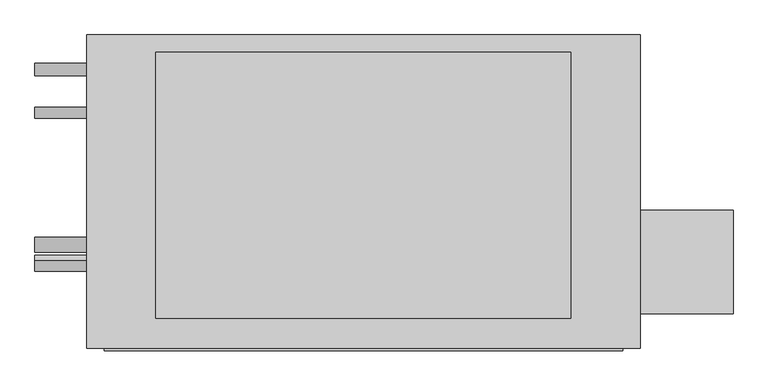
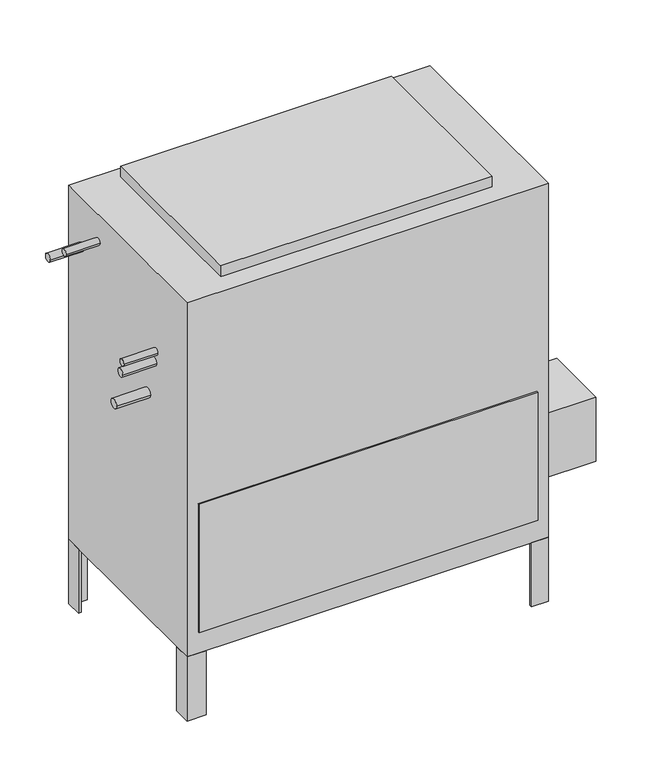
"""IFC4 building model written with IfcOpenShell, lengths in millimetres: proxy geometry, Concealed_High_Capacity_Vertical_Fan_Coil_Unit_-_42DDA_-_CARRIER_-_4-Pipe_LH_2022 : Size 10 - 277v/60Hz/1Ph - 4/2 Coil."""

from ifc_helpers import new_model, si_unit, point, frame, frame_2d, origin, origin_with_axes, place, context, project, spatial, polyline, circle_curve, trimmed, segment, composite_curve, outline, extrude, source, transform, mapped, element, save


def mechanical_equipment_23f30b28(model_context):
    return source(origin(), model_context, "Body", "SweptSolid", [
        extrude(outline(polyline([(695.325, -265.1125), (695.325, -417.5125), (558.8, -417.5125), (558.8, -265.1125), (695.325, -265.1125)])), frame((0.0, 0.0, 101.6), z_axis=(0.0, 0.0, 1.0), x_axis=(1.0, 0.0, 0.0)), (0.0, 0.0, 1.0), 152.4),
        extrude(outline(polyline([(558.8, -46.0375), (552.45, -46.0375), (552.45, -14.2875), (520.7, -14.2875), (520.7, -7.9375), (558.8, -7.9375), (558.8, -46.0375)])), frame((0.0, 0.0, -152.4), z_axis=(0.0, 0.0, 1.0), x_axis=(1.0, 0.0, 0.0)), (0.0, 0.0, 1.0), 152.4),
        extrude(outline(polyline([(-215.9, -7.9375), (-215.9, -14.2875), (-247.65, -14.2875), (-247.65, -46.0375), (-254.0, -46.0375), (-254.0, -7.9375), (-215.9, -7.9375)])), frame((0.0, 0.0, -152.4), z_axis=(0.0, 0.0, 1.0), x_axis=(1.0, 0.0, 0.0)), (0.0, 0.0, 1.0), 152.4),
        extrude(outline(polyline([(520.7, -468.3125), (520.7, -461.9625), (552.45, -461.9625), (552.45, -430.2125), (558.8, -430.2125), (558.8, -468.3125), (520.7, -468.3125)])), frame((0.0, 0.0, -152.4), z_axis=(0.0, 0.0, 1.0), x_axis=(1.0, 0.0, 0.0)), (0.0, 0.0, 1.0), 152.4),
        extrude(outline(polyline([(-254.0, -428.1199163), (-247.65, -428.1199163), (-247.65, -461.9625), (-210.5318533, -461.9625), (-210.5318533, -468.3125), (-254.0, -468.3125), (-254.0, -428.1199163)])), frame((0.0, 0.0, -152.4), z_axis=(0.0, 0.0, 1.0), x_axis=(1.0, 0.0, 0.0)), (0.0, 0.0, 1.0), 152.4),
        extrude(outline(polyline([(457.2, -33.3375), (457.2, -423.8625), (-152.4, -423.8625), (-152.4, -33.3375), (457.2, -33.3375)])), frame((0.0, 0.0, 841.375), z_axis=(0.0, 0.0, 1.0), x_axis=(1.0, 0.0, 0.0)), (0.0, 0.0, 1.0), 25.4),
        extrude(outline(polyline([(533.4, -471.4875), (-228.6, -471.4875), (-228.6, -468.3125), (533.4, -468.3125), (533.4, -471.4875)])), frame((0.0, 0.0, 50.8), z_axis=(0.0, 0.0, 1.0), x_axis=(1.0, 0.0, 0.0)), (0.0, 0.0, 1.0), 304.8),
        extrude(outline(composite_curve([segment(trimmed(circle_curve(frame_2d((-122.2375, 777.875)), 7.9375), [point((-130.175, 777.875))], [point((-114.3, 777.875))], False, "CARTESIAN"), True, "CONTINUOUS"), segment(trimmed(circle_curve(frame_2d((-122.2375, 777.875)), 7.9375), [point((-114.3, 777.875))], [point((-130.175, 777.875))], False, "CARTESIAN"), True, "CONTINUOUS")], self_intersect=False)), frame((-330.2, 0.0, 0.0), z_axis=(1.0, 0.0, 0.0), x_axis=(0.0, 1.0, 0.0)), (0.0, 0.0, 1.0), 76.2),
        extrude(outline(composite_curve([segment(trimmed(circle_curve(frame_2d((-347.3848135, 653.2230057)), 7.9375), [point((-355.3223135, 653.2230057))], [point((-339.4473135, 653.2230057))], False, "CARTESIAN"), True, "CONTINUOUS"), segment(trimmed(circle_curve(frame_2d((-347.3848135, 653.2230057)), 7.9375), [point((-339.4473135, 653.2230057))], [point((-355.3223135, 653.2230057))], False, "CARTESIAN"), True, "CONTINUOUS")], self_intersect=False)), frame((-330.2, 0.0, 0.0), z_axis=(1.0, 0.0, 0.0), x_axis=(0.0, 1.0, 0.0)), (0.0, 0.0, 1.0), 76.2),
        extrude(outline(composite_curve([segment(trimmed(circle_curve(frame_2d((-58.7375, 727.075)), 9.525), [point((-68.2625, 727.075))], [point((-49.2125, 727.075))], False, "CARTESIAN"), True, "CONTINUOUS"), segment(trimmed(circle_curve(frame_2d((-58.7375, 727.075)), 9.525), [point((-49.2125, 727.075))], [point((-68.2625, 727.075))], False, "CARTESIAN"), True, "CONTINUOUS")], self_intersect=False)), frame((-330.2, 0.0, 0.0), z_axis=(1.0, 0.0, 0.0), x_axis=(0.0, 1.0, 0.0)), (0.0, 0.0, 1.0), 76.2),
        extrude(outline(composite_curve([segment(trimmed(circle_curve(frame_2d((-341.3125, 625.475)), 9.525), [point((-350.8375, 625.475))], [point((-331.7875, 625.475))], False, "CARTESIAN"), True, "CONTINUOUS"), segment(trimmed(circle_curve(frame_2d((-341.3125, 625.475)), 9.525), [point((-331.7875, 625.475))], [point((-350.8375, 625.475))], False, "CARTESIAN"), True, "CONTINUOUS")], self_intersect=False)), frame((-330.2, 0.0, 0.0), z_axis=(1.0, 0.0, 0.0), x_axis=(0.0, 1.0, 0.0)), (0.0, 0.0, 1.0), 76.2),
        extrude(outline(composite_curve([segment(trimmed(circle_curve(frame_2d((-315.9125, 536.575)), 11.1125), [point((-327.025, 536.575))], [point((-304.8, 536.575))], False, "CARTESIAN"), True, "CONTINUOUS"), segment(trimmed(circle_curve(frame_2d((-315.9125, 536.575)), 11.1125), [point((-304.8, 536.575))], [point((-327.025, 536.575))], False, "CARTESIAN"), True, "CONTINUOUS")], self_intersect=False)), frame((-330.2, 0.0, 0.0), z_axis=(1.0, 0.0, 0.0), x_axis=(0.0, 1.0, 0.0)), (0.0, 0.0, 1.0), 76.2),
        extrude(outline(polyline([(558.8, -7.9375), (558.8, -468.3125), (-254.0, -468.3125), (-254.0, -7.9375), (558.8, -7.9375)])), origin_with_axes(), (0.0, 0.0, 1.0), 841.375),
    ])


if __name__ == "__main__":
    model = new_model("IFC4")
    model_context = context("Model", 3, world=origin())
    ifc_project = project(units=[si_unit("LENGTHUNIT", "METRE", prefix="MILLI")], contexts=[model_context])
    site = spatial("IfcSite", under=ifc_project)
    building = spatial("IfcBuilding", under=site)
    placement = place(None, origin())
    mechanical_equipment_shape = mechanical_equipment_23f30b28(model_context)
    element("IfcBuildingElementProxy", 1, Name="Concealed_High_Capacity_Vertical_Fan_Coil_Unit_-_42DDA_-_CARRIER_-_4-Pipe_LH_2022 : Size 10 - 277v/60Hz/1Ph - 4/2 Coil", ObjectType="Concealed_High_Capacity_Vertical_Fan_Coil_Unit_-_42DDA_-_CARRIER_-_4-Pipe_LH_2022 : Size 10 - 277v/60Hz/1Ph - 4/2 Coil", at=placement, inside=building, context=model_context, shape_type="MappedRepresentation", body=[
        mapped(mechanical_equipment_shape, transform((0.0, 0.0, 0.0), x_axis=(1.0, 0.0, 0.0), y_axis=(0.0, 1.0, 0.0), z_axis=(0.0, 0.0, 1.0))),
    ])
    save(model, "model.ifc")
